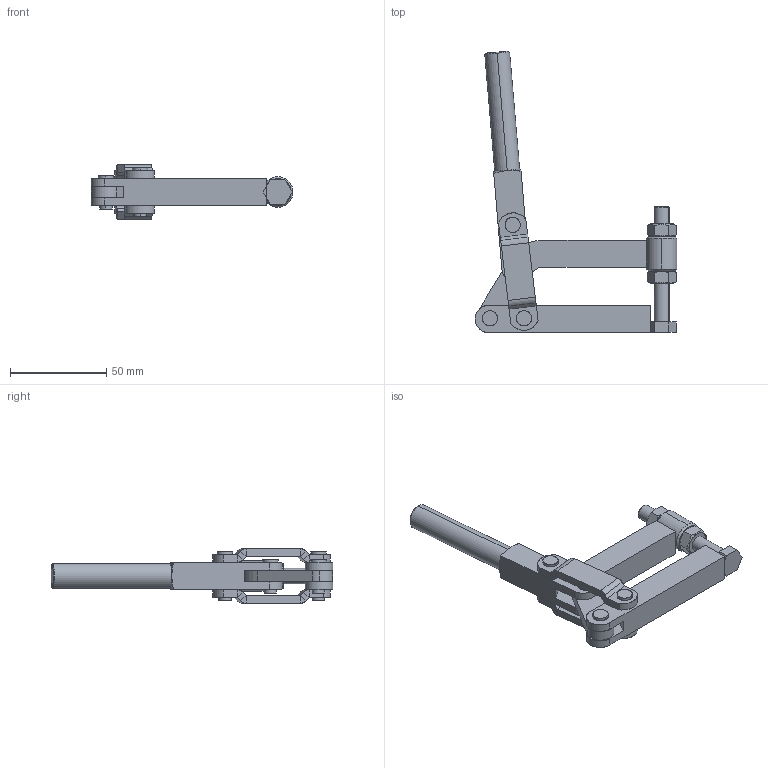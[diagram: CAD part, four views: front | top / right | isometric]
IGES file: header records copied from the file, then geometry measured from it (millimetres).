
Start section: SolidWorks IGES file using analytic representation for surfaces
Global section: file name: C:\Projetos\Grampos\KF-MP\KF-02 MP\KF-02 MP.IGS; native system: SolidWorks 2011; preprocessor: SolidWorks 2011; author: Usuario; date: 110517.111644; units: millimetre
Bounding box: 105.1 x 146.53 x 28.29 mm (x, y, z)
Surface area: 30382.7 mm2 (no closed solid volume)
Topology: 0 solids, 0 shells, 248 faces, 3562 edges, 3554 vertices
Faces by surface type: revolution 126, bspline 122
